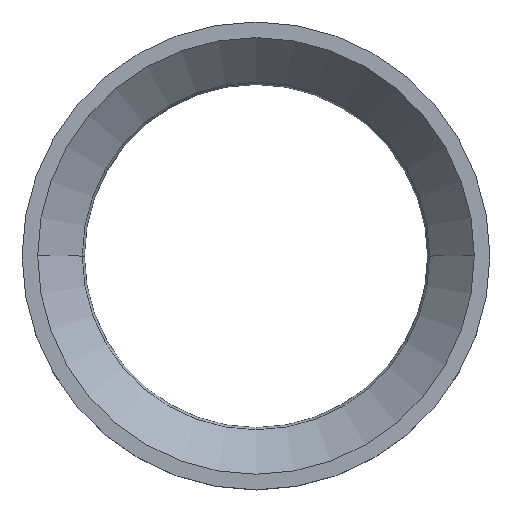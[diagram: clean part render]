
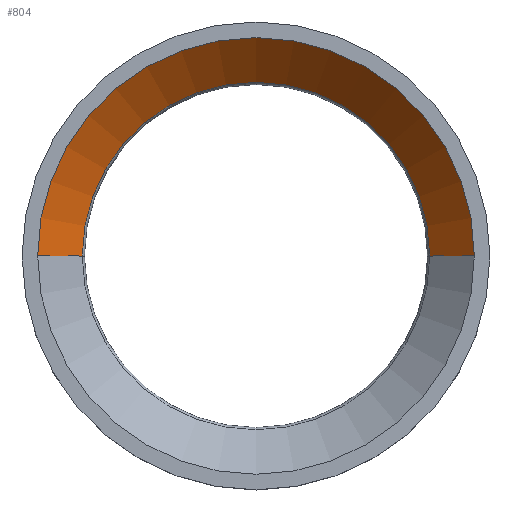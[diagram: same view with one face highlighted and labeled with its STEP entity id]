
A CAD part, top view. The second image highlights one B-rep face of the part: STEP entity #804.
In plain terms, the highlighted conical face has half-angle 45 degrees and reference radius 50.293 mm.
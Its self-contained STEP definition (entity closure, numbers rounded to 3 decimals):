
#112=DIRECTION('',(-0.707,0.,-0.707));
#113=VECTOR('',#112,16.142);
#114=CARTESIAN_POINT('',(56.,0.,22.));
#115=LINE('',#114,#113);
#116=CARTESIAN_POINT('',(0.,0.,
10.586));
#117=DIRECTION('',(0.,0.,1.));
#118=DIRECTION('',(1.,0.,0.));
#119=AXIS2_PLACEMENT_3D('',#116,#117,#118);
#121=DIRECTION('',(0.707,0.,-0.707));
#122=VECTOR('',#121,16.142);
#123=CARTESIAN_POINT('',(-56.,0.,
22.));
#124=LINE('',#123,#122);
#140=CARTESIAN_POINT('',(0.,0.,
22.));
#141=DIRECTION('',(0.,0.,-1.));
#142=DIRECTION('',(-1.,0.,0.));
#143=AXIS2_PLACEMENT_3D('',#140,#141,#142);
#519=CARTESIAN_POINT('',(56.,0.,
22.));
#520=CARTESIAN_POINT('',(-56.,0.,22.));
#521=VERTEX_POINT('',#519);
#522=VERTEX_POINT('',#520);
#527=CARTESIAN_POINT('',(-44.586,0.,
10.586));
#528=CARTESIAN_POINT('',(44.586,0.,10.586));
#529=VERTEX_POINT('',#527);
#530=VERTEX_POINT('',#528);
#792=CARTESIAN_POINT('',(0.,0.,
16.293));
#793=DIRECTION('',(0.,0.,1.));
#794=DIRECTION('',(0.,-1.,0.));
#795=AXIS2_PLACEMENT_3D('',#792,#793,#794);
#796=CONICAL_SURFACE('',#795,50.293,45.);
#797=ORIENTED_EDGE('',*,*,#757,.T.);
#798=ORIENTED_EDGE('',*,*,#787,.F.);
#800=ORIENTED_EDGE('',*,*,#799,.T.);
#801=ORIENTED_EDGE('',*,*,#783,.T.);
#802=EDGE_LOOP('',(#797,#798,#800,#801));
#803=FACE_OUTER_BOUND('',#802,.F.);
#120=CIRCLE('',#119,44.586);
#144=CIRCLE('',#143,56.);
#757=EDGE_CURVE('',#530,#529,#120,.T.);
#783=EDGE_CURVE('',#521,#530,#115,.T.);
#787=EDGE_CURVE('',#522,#529,#124,.T.);
#799=EDGE_CURVE('',#522,#521,#144,.T.);
#804=ADVANCED_FACE('',(#803),#796,.F.);
